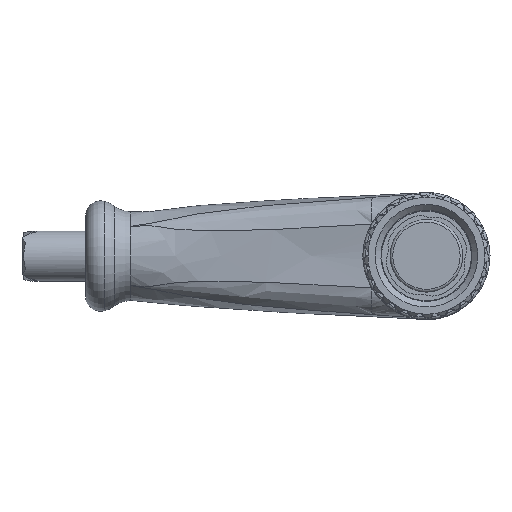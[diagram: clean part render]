
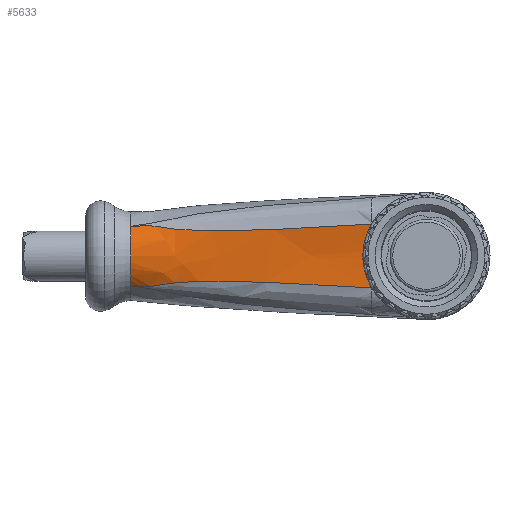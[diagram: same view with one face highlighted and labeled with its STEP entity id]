
A CAD part, top view. The second image highlights one B-rep face of the part: STEP entity #5633.
In plain terms, the highlighted free-form (B-spline) face has degree [3, 3] with [6, 6] control points.
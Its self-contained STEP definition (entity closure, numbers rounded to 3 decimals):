
#1914=CARTESIAN_POINT('',(-9.231,2.485,4.476));
#1915=VERTEX_POINT('',#1914);
#1931=CARTESIAN_POINT('',(-9.231,-2.485,4.476));
#1932=VERTEX_POINT('',#1931);
#1933=CARTESIAN_POINT('',(-9.231,-2.485,4.476));
#1934=CARTESIAN_POINT('',(-9.476,-2.063,4.423));
#1935=CARTESIAN_POINT('',(-9.648,-1.624,4.369));
#1936=CARTESIAN_POINT('',(-9.884,-0.667,4.281));
#1937=CARTESIAN_POINT('',(-9.946,-0.065,4.247));
#1938=CARTESIAN_POINT('',(-9.791,1.184,4.318));
#1939=CARTESIAN_POINT('',(-9.616,1.767,4.387));
#1940=CARTESIAN_POINT('',(-9.293,2.376,4.462));
#1941=CARTESIAN_POINT('',(-9.263,2.431,4.469));
#1942=CARTESIAN_POINT('',(-9.231,2.485,4.476));
#1943=B_SPLINE_CURVE_WITH_KNOTS('',3,(#1933,#1934,#1935,#1936,#1937,#1938,#1939,#1940,#1941,#1942),.UNSPECIFIED.,.F.,.U.,(4,2,2,2,4),(-0.928,-0.741,-0.518,-0.329,-0.31),.UNSPECIFIED.);
#1944=EDGE_CURVE('',#1932,#1915,#1943,.T.);
#5183=CARTESIAN_POINT('',(-28.,-2.309,2.564));
#5184=VERTEX_POINT('',#5183);
#5405=CARTESIAN_POINT('',(-28.,2.309,2.564));
#5406=VERTEX_POINT('',#5405);
#5433=CARTESIAN_POINT('',(-28.,2.309,2.564));
#5434=CARTESIAN_POINT('',(-27.971,2.311,2.566));
#5435=CARTESIAN_POINT('',(-27.942,2.313,2.568));
#5436=CARTESIAN_POINT('',(-27.345,2.362,2.615));
#5437=CARTESIAN_POINT('',(-26.494,2.417,2.716));
#5438=CARTESIAN_POINT('',(-25.307,2.199,3.002));
#5439=CARTESIAN_POINT('',(-24.42,2.069,3.133));
#5440=CARTESIAN_POINT('',(-23.547,2.001,3.22));
#5441=CARTESIAN_POINT('',(-22.393,1.953,3.309));
#5442=CARTESIAN_POINT('',(-21.535,1.95,3.363));
#5443=CARTESIAN_POINT('',(-20.939,1.955,3.401));
#5444=CARTESIAN_POINT('',(-20.915,1.955,3.402));
#5445=CARTESIAN_POINT('',(-20.309,1.96,3.441));
#5446=CARTESIAN_POINT('',(-19.152,1.983,3.515));
#5447=CARTESIAN_POINT('',(-17.421,2.04,3.638));
#5448=CARTESIAN_POINT('',(-15.694,2.112,3.777));
#5449=CARTESIAN_POINT('',(-14.544,2.169,3.882));
#5450=CARTESIAN_POINT('',(-13.957,2.199,3.939));
#5451=CARTESIAN_POINT('',(-13.943,2.2,3.94));
#5452=CARTESIAN_POINT('',(-13.144,2.242,4.018));
#5453=CARTESIAN_POINT('',(-11.576,2.33,4.183));
#5454=CARTESIAN_POINT('',(-10.012,2.431,4.374));
#5455=CARTESIAN_POINT('',(-9.231,2.485,4.476));
#5456=B_SPLINE_CURVE_WITH_KNOTS('',3,(#5433,#5434,#5435,#5436,#5437,#5438,#5439,#5440,#5441,#5442,#5443,#5444,#5445,#5446,#5447,#5448,#5449,#5450,#5451,#5452,#5453,#5454,#5455),.UNSPECIFIED.,.F.,.U.,(4,2,1,1,1,1,1,2,2,1,1,1,2,2,1,4),(-2.171,-2.162,-1.99,-1.903,-1.817,-1.731,-1.645,-1.472,-1.465,-1.289,-1.114,-0.938,-0.763,-0.758,-0.518,-0.278),.UNSPECIFIED.);
#5457=EDGE_CURVE('',#5406,#1915,#5456,.T.);
#5549=CARTESIAN_POINT('',(-9.168,-4.281,4.474));
#5550=CARTESIAN_POINT('',(-9.157,-2.965,4.603));
#5551=CARTESIAN_POINT('',(-9.136,-1.451,4.368));
#5552=CARTESIAN_POINT('',(-9.136,1.451,4.368));
#5553=CARTESIAN_POINT('',(-9.157,2.965,4.603));
#5554=CARTESIAN_POINT('',(-9.168,4.281,4.474));
#5555=CARTESIAN_POINT('',(-10.758,-4.114,4.244));
#5556=CARTESIAN_POINT('',(-10.746,-2.878,4.414));
#5557=CARTESIAN_POINT('',(-10.726,-1.4,4.153));
#5558=CARTESIAN_POINT('',(-10.726,1.4,4.153));
#5559=CARTESIAN_POINT('',(-10.746,2.878,4.414));
#5560=CARTESIAN_POINT('',(-10.758,4.114,4.244));
#5561=CARTESIAN_POINT('',(-14.685,-3.7,3.718));
#5562=CARTESIAN_POINT('',(-14.674,-2.664,4.002));
#5563=CARTESIAN_POINT('',(-14.658,-1.273,3.708));
#5564=CARTESIAN_POINT('',(-14.658,1.273,3.708));
#5565=CARTESIAN_POINT('',(-14.674,2.664,4.002));
#5566=CARTESIAN_POINT('',(-14.685,3.7,3.718));
#5567=CARTESIAN_POINT('',(-20.961,-3.043,3.05));
#5568=CARTESIAN_POINT('',(-20.956,-2.282,3.522));
#5569=CARTESIAN_POINT('',(-20.954,-1.07,3.338));
#5570=CARTESIAN_POINT('',(-20.954,1.07,3.338));
#5571=CARTESIAN_POINT('',(-20.956,2.282,3.522));
#5572=CARTESIAN_POINT('',(-20.961,3.043,3.05));
#5573=CARTESIAN_POINT('',(-25.654,-2.553,2.701));
#5574=CARTESIAN_POINT('',(-25.653,-1.906,3.254));
#5575=CARTESIAN_POINT('',(-25.655,-0.919,3.363));
#5576=CARTESIAN_POINT('',(-25.655,0.919,3.363));
#5577=CARTESIAN_POINT('',(-25.653,1.906,3.254));
#5578=CARTESIAN_POINT('',(-25.654,2.553,2.701));
#5579=CARTESIAN_POINT('',(-28.,-2.309,2.564));
#5580=CARTESIAN_POINT('',(-28.,-1.682,3.128));
#5581=CARTESIAN_POINT('',(-28.,-0.844,3.45));
#5582=CARTESIAN_POINT('',(-28.,0.844,3.45));
#5583=CARTESIAN_POINT('',(-28.,1.682,3.128));
#5584=CARTESIAN_POINT('',(-28.,2.309,2.564));
#5585=B_SPLINE_SURFACE_WITH_KNOTS('',3,3,((#5549,#5555,#5561,#5567,#5573,#5579),(#5550,#5556,#5562,#5568,#5574,#5580),(#5551,#5557,#5563,#5569,#5575,#5581),(#5552,#5558,#5564,#5570,#5576,#5582),(#5553,#5559,#5565,#5571,#5577,#5583),(#5554,#5560,#5566,#5572,#5578,#5584)),.UNSPECIFIED.,.F.,.F.,.F.,(4,2,4),(4,1,1,4),(0.0,0.5,1.0),(0.329,0.5,0.75,1.0),.UNSPECIFIED.);
#5586=ORIENTED_EDGE('',*,*,#5457,.F.);
#5587=CARTESIAN_POINT('',(-28.,0.0,3.45));
#5588=VERTEX_POINT('',#5587);
#5589=CARTESIAN_POINT('',(-28.,0.0,0.0));
#5590=DIRECTION('',(-1.0,0.0,0.0));
#5591=DIRECTION('',(0.0,0.0,1.0));
#5592=AXIS2_PLACEMENT_3D('',#5589,#5590,#5591);
#5593=CIRCLE('',#5592,3.45);
#5594=EDGE_CURVE('',#5588,#5406,#5593,.T.);
#5595=ORIENTED_EDGE('',*,*,#5594,.F.);
#5596=CARTESIAN_POINT('',(-28.,0.0,0.0));
#5597=DIRECTION('',(-1.0,0.0,0.0));
#5598=DIRECTION('',(0.0,0.0,1.0));
#5599=AXIS2_PLACEMENT_3D('',#5596,#5597,#5598);
#5600=CIRCLE('',#5599,3.45);
#5601=EDGE_CURVE('',#5184,#5588,#5600,.T.);
#5602=ORIENTED_EDGE('',*,*,#5601,.F.);
#5603=CARTESIAN_POINT('',(-9.231,-2.485,4.476));
#5604=CARTESIAN_POINT('',(-10.012,-2.431,4.374));
#5605=CARTESIAN_POINT('',(-11.185,-2.356,4.231));
#5606=CARTESIAN_POINT('',(-12.752,-2.264,4.059));
#5607=CARTESIAN_POINT('',(-13.537,-2.221,3.98));
#5608=CARTESIAN_POINT('',(-13.943,-2.2,3.94));
#5609=CARTESIAN_POINT('',(-13.957,-2.199,3.939));
#5610=CARTESIAN_POINT('',(-14.544,-2.169,3.882));
#5611=CARTESIAN_POINT('',(-15.693,-2.112,3.777));
#5612=CARTESIAN_POINT('',(-17.42,-2.04,3.638));
#5613=CARTESIAN_POINT('',(-19.152,-1.983,3.515));
#5614=CARTESIAN_POINT('',(-20.309,-1.96,3.441));
#5615=CARTESIAN_POINT('',(-20.915,-1.955,3.402));
#5616=CARTESIAN_POINT('',(-20.939,-1.955,3.401));
#5617=CARTESIAN_POINT('',(-21.535,-1.95,3.363));
#5618=CARTESIAN_POINT('',(-22.392,-1.953,3.309));
#5619=CARTESIAN_POINT('',(-23.545,-2.001,3.22));
#5620=CARTESIAN_POINT('',(-24.417,-2.068,3.133));
#5621=CARTESIAN_POINT('',(-25.304,-2.198,3.002));
#5622=CARTESIAN_POINT('',(-26.49,-2.416,2.717));
#5623=CARTESIAN_POINT('',(-27.34,-2.362,2.616));
#5624=CARTESIAN_POINT('',(-27.939,-2.314,2.569));
#5625=CARTESIAN_POINT('',(-27.969,-2.311,2.566));
#5626=CARTESIAN_POINT('',(-28.,-2.309,2.564));
#5627=B_SPLINE_CURVE_WITH_KNOTS('',3,(#5603,#5604,#5605,#5606,#5607,#5608,#5609,#5610,#5611,#5612,#5613,#5614,#5615,#5616,#5617,#5618,#5619,#5620,#5621,#5622,#5623,#5624,#5625,#5626),.UNSPECIFIED.,.F.,.U.,(4,1,1,2,2,1,1,1,2,2,1,1,1,1,1,2,4),(0.246,0.486,0.606,0.726,0.73,0.906,1.081,1.257,1.433,1.44,1.612,1.699,1.785,1.871,1.957,2.13,2.139),.UNSPECIFIED.);
#5628=EDGE_CURVE('',#1932,#5184,#5627,.T.);
#5629=ORIENTED_EDGE('',*,*,#5628,.F.);
#5630=ORIENTED_EDGE('',*,*,#1944,.T.);
#5631=EDGE_LOOP('',(#5586,#5595,#5602,#5629,#5630));
#5632=FACE_OUTER_BOUND('',#5631,.T.);
#5633=ADVANCED_FACE('',(#5632),#5585,.T.);
